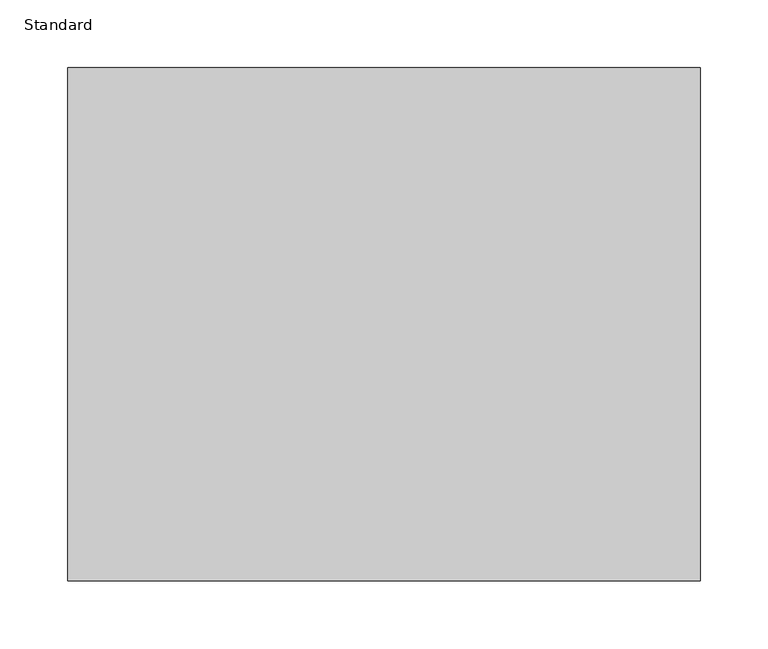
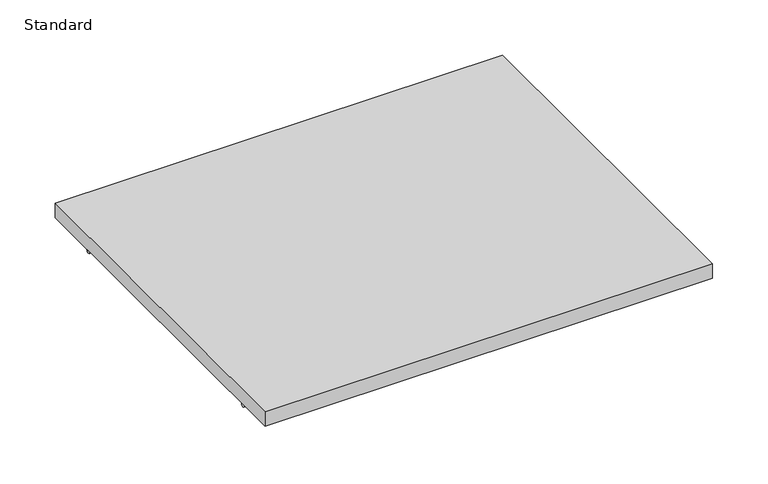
"""IFC4 building model written with IfcOpenShell, lengths in millimetres: furniture geometry, X_Locker-Duracube-Shelf : Standard."""

import ifcopenshell
import ifcopenshell.guid

model = None  # the IFC model being written
_history = None  # IfcOwnerHistory: only IFC2X3 demands one
_inside = {}  # id of a spatial element -> (the spatial element, [elements in it])
_under = {}  # id of a project, library or spatial element -> (it, [spatial elements below it])
_declared = {}  # id of a project -> (the project, [libraries it declares])
_typed = {}  # id of a type object -> (the type object, [elements of that type])
_made_of = {}  # id of a material, layer set ... -> (it, [elements and type objects made of it])


def new_model(schema):
    """Start an empty IFC model of exactly this schema.

    Asked for "IFC4X3", IfcOpenShell would pick the latest addendum, in which some entities
    have other attributes; the version numbers below select the first issue.
    IFC2X3 requires an IfcOwnerHistory on every rooted entity: one is made here for all.
    """
    global model, _history
    if schema == "IFC4X3":
        model = ifcopenshell.file(schema_version=(4, 3, 0, 0))
    else:
        model = ifcopenshell.file(schema=schema)
    _inside.clear()
    _under.clear()
    _declared.clear()
    _typed.clear()
    _made_of.clear()
    _history = None
    if model.schema == "IFC2X3":
        org = make("IfcOrganization", Name="unknown")
        user = make(
            "IfcPersonAndOrganization",
            ThePerson=make("IfcPerson", FamilyName="unknown"),
            TheOrganization=org,
        )
        app = make(
            "IfcApplication",
            ApplicationDeveloper=org,
            Version="unknown",
            ApplicationFullName="unknown",
            ApplicationIdentifier="unknown",
        )
        _history = make(
            "IfcOwnerHistory",
            OwningUser=user,
            OwningApplication=app,
            ChangeAction="ADDED",
            CreationDate=0,
        )
    return model


def make(cls, **values):
    """One entity of the class cls with the attributes given. An attribute that is None is left unset."""
    return model.create_entity(
        cls, **{name: value for name, value in values.items() if value is not None}
    )


def rooted(cls, **values):
    """An entity with a GlobalId (a new one), such as an element, a storey or a relation."""
    return make(cls, GlobalId=ifcopenshell.guid.new(), OwnerHistory=_history, **values)


def si_unit(unit_type, name, prefix=None):
    """IfcSIUnit, for example si_unit("LENGTHUNIT", "METRE", prefix="MILLI")."""
    return make("IfcSIUnit", UnitType=unit_type, Prefix=prefix, Name=name)


def assignment(units):
    """IfcUnitAssignment: the units of a project."""
    return None if units is None else make("IfcUnitAssignment", Units=units)


def point(xyz):
    """IfcCartesianPoint."""
    return None if xyz is None else make("IfcCartesianPoint", Coordinates=xyz)


def direction(xyz):
    """IfcDirection."""
    return None if xyz is None else make("IfcDirection", DirectionRatios=xyz)


def frame(location, z_axis=None, x_axis=None):
    """IfcAxis2Placement3D, a coordinate frame: its origin and axes. An axis left out is left unset."""
    return make(
        "IfcAxis2Placement3D",
        Location=point(location),
        Axis=direction(z_axis),
        RefDirection=direction(x_axis),
    )


def frame_2d(location, x_axis=None):
    """IfcAxis2Placement2D, a coordinate frame in the plane: its origin and x axis."""
    return make(
        "IfcAxis2Placement2D", Location=point(location), RefDirection=direction(x_axis)
    )


def origin():
    """The frame at (0, 0, 0) with its axes left unset."""
    return frame((0.0, 0.0, 0.0))


def origin_with_axes():
    """The frame at (0, 0, 0) with the z axis (0, 0, 1) and the x axis (1, 0, 0) written out."""
    return frame((0.0, 0.0, 0.0), z_axis=(0.0, 0.0, 1.0), x_axis=(1.0, 0.0, 0.0))


def place(relative_to, where):
    """IfcLocalPlacement: puts the frame where relative to a parent placement (None: the world)."""
    return make(
        "IfcLocalPlacement", PlacementRelTo=relative_to, RelativePlacement=where
    )


def context(
    kind, dimensions, precision=None, world=None, true_north=None, identifier=None
):
    """IfcGeometricRepresentationContext, for example the 3D "Model" context."""
    return make(
        "IfcGeometricRepresentationContext",
        ContextIdentifier=identifier,
        ContextType=kind,
        CoordinateSpaceDimension=dimensions,
        Precision=precision,
        WorldCoordinateSystem=world,
        TrueNorth=true_north,
    )


def project(units=None, contexts=None):
    """IfcProject with its units and contexts."""
    return rooted(
        "IfcProject",
        Name="project",
        RepresentationContexts=contexts,
        UnitsInContext=assignment(units),
    )


def spatial(cls, under=None, at=None, **own):
    """A site, building, storey or space (cls), placed at a placement, below another one or the project."""
    s = rooted(cls, ObjectPlacement=at, **own)
    if under is not None:
        _under.setdefault(under.id(), (under, []))[1].append(s)
    return s


def polyline(points):
    """IfcPolyline through the points."""
    return make("IfcPolyline", Points=[point(p) for p in points])


def circle_curve(where, radius):
    """IfcCircle in the frame where."""
    return make("IfcCircle", Position=where, Radius=radius)


def trimmed(basis, trim1, trim2, sense, master):
    """IfcTrimmedCurve: the piece of a basis curve between two trims."""
    return make(
        "IfcTrimmedCurve",
        BasisCurve=basis,
        Trim1=trim1,
        Trim2=trim2,
        SenseAgreement=sense,
        MasterRepresentation=master,
    )


def segment(curve, same_sense, transition):
    """IfcCompositeCurveSegment."""
    return make(
        "IfcCompositeCurveSegment",
        Transition=transition,
        SameSense=same_sense,
        ParentCurve=curve,
    )


def composite_curve(segments, self_intersect=None):
    """IfcCompositeCurve: segments joined end to end."""
    return make("IfcCompositeCurve", Segments=segments, SelfIntersect=self_intersect)


def outline(outer, holes=None, kind="AREA"):
    """IfcArbitraryClosedProfileDef: a profile drawn as a closed curve; with holes, ...WithVoids."""
    if holes is None:
        return make("IfcArbitraryClosedProfileDef", ProfileType=kind, OuterCurve=outer)
    return make(
        "IfcArbitraryProfileDefWithVoids",
        ProfileType=kind,
        OuterCurve=outer,
        InnerCurves=holes,
    )


def extrude(swept, where, along, depth):
    """IfcExtrudedAreaSolid: the profile swept, set in the frame where, extruded along a direction by depth."""
    return make(
        "IfcExtrudedAreaSolid",
        SweptArea=swept,
        Position=where,
        ExtrudedDirection=direction(along),
        Depth=depth,
    )


def shape(context_of_items, identifier, shape_type, items):
    """IfcShapeRepresentation: the items that make up one representation, for example the "Body"."""
    return make(
        "IfcShapeRepresentation",
        ContextOfItems=context_of_items,
        RepresentationIdentifier=identifier,
        RepresentationType=shape_type,
        Items=items,
    )


def source(mapping_origin, context_of_items, identifier, shape_type, items):
    """IfcRepresentationMap: a shape defined once, which mapped items show again and again."""
    return make(
        "IfcRepresentationMap",
        MappingOrigin=mapping_origin,
        MappedRepresentation=shape(context_of_items, identifier, shape_type, items),
    )


def transform(
    local_origin,
    x_axis=None,
    y_axis=None,
    z_axis=None,
    scale=None,
    scale2=None,
    scale3=None,
    uniform=True,
):
    """IfcCartesianTransformationOperator3D, or its non-uniform kind. x_axis, y_axis, z_axis: its Axis1, 2, 3."""
    if uniform:
        return make(
            "IfcCartesianTransformationOperator3D",
            Axis1=direction(x_axis),
            Axis2=direction(y_axis),
            LocalOrigin=point(local_origin),
            Scale=scale,
            Axis3=direction(z_axis),
        )
    return make(
        "IfcCartesianTransformationOperator3DnonUniform",
        Axis1=direction(x_axis),
        Axis2=direction(y_axis),
        LocalOrigin=point(local_origin),
        Scale=scale,
        Axis3=direction(z_axis),
        Scale2=scale2,
        Scale3=scale3,
    )


def mapped(mapping_source, mapping_target):
    """IfcMappedItem: shows the shape of a source again, moved by a transform."""
    return make(
        "IfcMappedItem", MappingSource=mapping_source, MappingTarget=mapping_target
    )


def made_of(thing, what):
    """Note that an element or type object is made of a material, layer set ...; save() writes the relation."""
    if what is not None:
        _made_of.setdefault(what.id(), (what, []))[1].append(thing)
    return thing


def element(
    cls,
    number,
    at=None,
    inside=None,
    cuts=None,
    type_object=None,
    material=None,
    context=None,
    identifier="Body",
    shape_type=None,
    held_by="IfcProductDefinitionShape",
    body=None,
    shapes=None,
    **own,
):
    """One element of the class cls, such as IfcWall. Its Tag is "e" and its number.

    at: its placement. inside: the storey or other place that contains it. cuts: it is an
    opening in that element (IfcRelVoidsElement). A single representation is given by context,
    identifier, shape_type and body (its items); several are given by shapes. held_by: the class
    of the entity that holds the representations. save() writes the other relations.
    """
    e = rooted(cls, Tag="e%d" % number, ObjectPlacement=at, **own)
    if body is not None:
        shapes = [shape(context, identifier, shape_type, body)]
    if shapes is not None:
        e.Representation = make(held_by, Representations=shapes)
    if inside is not None:
        _inside.setdefault(inside.id(), (inside, []))[1].append(e)
    if cuts is not None:
        rooted(
            "IfcRelVoidsElement", RelatingBuildingElement=cuts, RelatedOpeningElement=e
        )
    if type_object is not None:
        _typed.setdefault(type_object.id(), (type_object, []))[1].append(e)
    return made_of(e, material)


def aggregate(whole, parts):
    """IfcRelAggregates: a whole, such as a stair, and the parts it consists of."""
    return rooted("IfcRelAggregates", RelatingObject=whole, RelatedObjects=parts)


def save(model, path):
    """Write the relations noted so far, then the file.

    IfcRelAggregates (storeys below a building ...), IfcRelContainedInSpatialStructure (elements
    in a storey), IfcRelDefinesByType, IfcRelAssociatesMaterial and IfcRelDeclares: one each for
    every whole, place, type object, material and project.
    """
    for whole, parts in _under.values():
        aggregate(whole, parts)
    for where, things in _inside.values():
        rooted(
            "IfcRelContainedInSpatialStructure",
            RelatedElements=things,
            RelatingStructure=where,
        )
    for kind, things in _typed.values():
        rooted("IfcRelDefinesByType", RelatedObjects=things, RelatingType=kind)
    for what, things in _made_of.values():
        rooted("IfcRelAssociatesMaterial", RelatedObjects=things, RelatingMaterial=what)
    for by, libraries in _declared.values():
        rooted("IfcRelDeclares", RelatingContext=by, RelatedDefinitions=libraries)
    model.write(path)


def standard_03c1f8a1(model_context):
    return source(origin(), model_context, "Body", "SweptSolid", [
        extrude(outline(composite_curve([segment(trimmed(circle_curve(frame_2d((-472.5, 0.0)), 2.5), [point((-470.0, 0.0))], [point((-475.0, 0.0))], False, "CARTESIAN"), True, "CONTINUOUS"), segment(polyline([(-475.0, 0.0), (-470.0, 0.0)]), True, "CONTINUOUS")], self_intersect=False)), frame((-189.2996736, 0.0, 0.0), z_axis=(1.0, 0.0, 0.0), x_axis=(0.0, 1.0, 0.0)), (0.0, 0.0, 1.0), 5.0),
        extrude(outline(composite_curve([segment(trimmed(circle_curve(frame_2d((-752.5, 0.0)), 2.5), [point((-750.0, 0.0))], [point((-755.0, 0.0))], False, "CARTESIAN"), True, "CONTINUOUS"), segment(polyline([(-755.0, 0.0), (-750.0, 0.0)]), True, "CONTINUOUS")], self_intersect=False)), frame((-189.2996736, 0.0, 0.0), z_axis=(1.0, 0.0, 0.0), x_axis=(0.0, 1.0, 0.0)), (0.0, 0.0, 1.0), 5.0),
        extrude(outline(composite_curve([segment(trimmed(circle_curve(frame_2d((-472.5, 0.0)), 2.5), [point((-470.0, 0.0))], [point((-475.0, 0.0))], False, "CARTESIAN"), True, "CONTINUOUS"), segment(polyline([(-475.0, 0.0), (-470.0, 0.0)]), True, "CONTINUOUS")], self_intersect=False)), frame((273.7003264, 0.0, 0.0), z_axis=(1.0, 0.0, 0.0), x_axis=(0.0, 1.0, 0.0)), (0.0, 0.0, 1.0), 5.0),
        extrude(outline(composite_curve([segment(trimmed(circle_curve(frame_2d((-752.5, 0.0)), 2.5), [point((-750.0, 0.0))], [point((-755.0, 0.0))], False, "CARTESIAN"), True, "CONTINUOUS"), segment(polyline([(-755.0, 0.0), (-750.0, 0.0)]), True, "CONTINUOUS")], self_intersect=False)), frame((273.7003264, 0.0, 0.0), z_axis=(1.0, 0.0, 0.0), x_axis=(0.0, 1.0, 0.0)), (0.0, 0.0, 1.0), 5.0),
        extrude(outline(polyline([(278.7003264, -412.5), (278.7003264, -792.5), (-189.2996736, -792.5), (-189.2996736, -412.5), (278.7003264, -412.5)])), origin_with_axes(), (0.0, 0.0, 1.0), 16.0),
    ])


if __name__ == "__main__":
    model = new_model("IFC4")
    model_context = context("Model", 3, world=origin())
    ifc_project = project(units=[si_unit("LENGTHUNIT", "METRE", prefix="MILLI")], contexts=[model_context])
    site = spatial("IfcSite", under=ifc_project)
    building = spatial("IfcBuilding", under=site)
    placement = place(None, origin())
    standard_shape = standard_03c1f8a1(model_context)
    element("IfcFurniture", 1, ObjectType="X_Locker-Duracube-Shelf : Standard", at=placement, inside=building, context=model_context, shape_type="MappedRepresentation", body=[
        mapped(standard_shape, transform((0.0, 0.0, 0.0), x_axis=(1.0, 0.0, 0.0), y_axis=(0.0, 1.0, 0.0), z_axis=(0.0, 0.0, 1.0))),
    ])
    save(model, "model.ifc")
